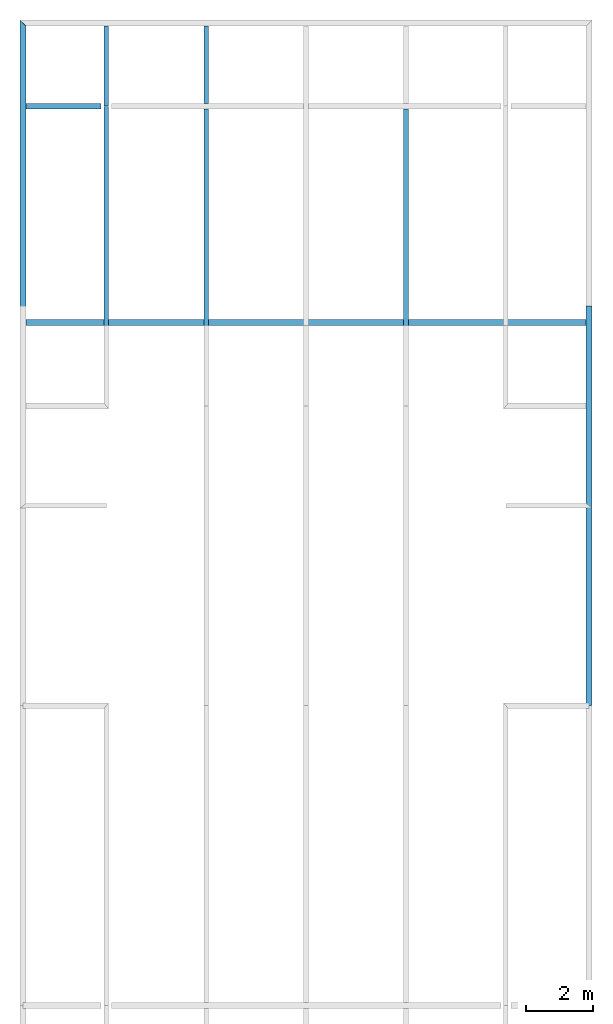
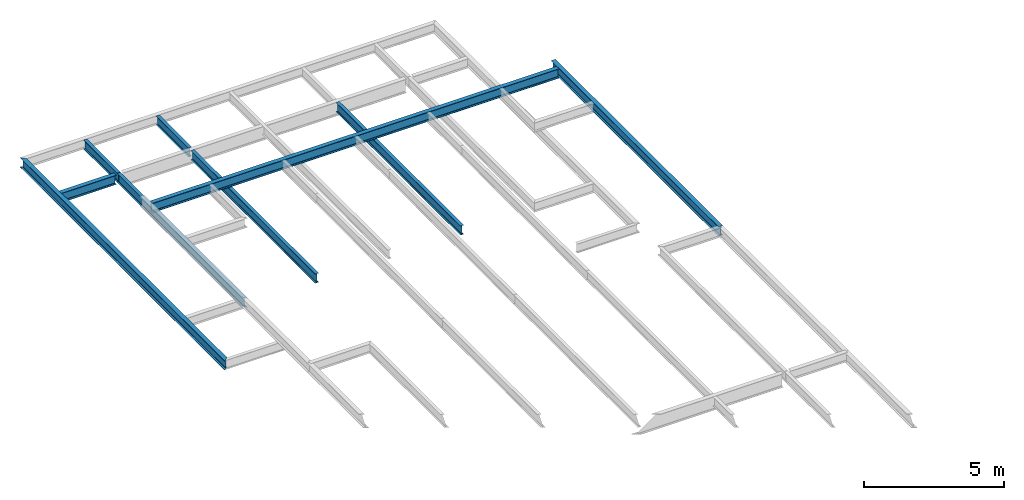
# One storey, part 6 of 7: 9 beams.
"""IFC2X3 building model written with IfcOpenShell, lengths in millimetres."""

from ifc_helpers import new_model, si_unit, origin, place, context, project, spatial, faceted_brep, material, element, save


model = new_model("IFC2X3")

# Units and contexts
context_of_model = context(None, 3, precision=1e-05, world=origin())
ifc_project = project(units=[si_unit("LENGTHUNIT", "METRE", prefix="MILLI")], contexts=[context_of_model])

# Building, storey
building = spatial("IfcBuilding", under=ifc_project, Name="Building", CompositionType="ELEMENT")
storey = spatial("IfcBuildingStorey", under=building, Name="ROF-FRM", CompositionType="ELEMENT")

# Beams
ifc_material_1 = material(Name="A992")
beam_1_placement = place(None, origin())
element("IfcBeam", 1, at=beam_1_placement, inside=storey, material=ifc_material_1, Name="B1136", context=context_of_model, shape_type="Brep", body=[
    faceted_brep([(-2410.0, 29410.0, 31260.0), (-2410.0, 29590.0, 31260.0), (14410.0, 29590.0, 31260.0), (14410.0, 29410.0, 31260.0), (-2410.0, 29590.0, 31276.0), (14410.0, 29590.0, 31276.0), (-2410.0, 29515.0, 31276.0), (14410.0, 29515.0, 31276.0), (-2410.0, 29512.4, 31276.3), (14410.0, 29512.4, 31276.3), (-2410.0, 29509.9, 31277.4), (14410.0, 29509.9, 31277.4), (-2410.0, 29507.8, 31279.0), (14410.0, 29507.8, 31279.0), (-2410.0, 29506.2, 31281.1), (14410.0, 29506.2, 31281.1), (-2410.0, 29505.2, 31283.6), (14410.0, 29505.2, 31283.6), (-2410.0, 29504.8, 31286.2), (14410.0, 29504.8, 31286.2), (-2410.0, 29504.8, 31646.8), (14410.0, 29504.8, 31646.8), (-2410.0, 29505.2, 31649.4), (14410.0, 29505.2, 31649.4), (-2410.0, 29506.2, 31651.9), (14410.0, 29506.2, 31651.9), (-2410.0, 29507.8, 31654.0), (14410.0, 29507.8, 31654.0), (-2410.0, 29509.9, 31655.6), (14410.0, 29509.9, 31655.6), (-2410.0, 29512.4, 31656.7), (14410.0, 29512.4, 31656.7), (-2410.0, 29515.0, 31657.0), (14410.0, 29515.0, 31657.0), (-2410.0, 29590.0, 31657.0), (14410.0, 29590.0, 31657.0), (-2410.0, 29590.0, 31673.0), (14410.0, 29590.0, 31673.0), (-2410.0, 29410.0, 31673.0), (14410.0, 29410.0, 31673.0), (-2410.0, 29410.0, 31657.0), (14410.0, 29410.0, 31657.0), (-2410.0, 29485.0, 31657.0), (14410.0, 29485.0, 31657.0), (-2410.0, 29487.6, 31656.7), (14410.0, 29487.6, 31656.7), (-2410.0, 29490.1, 31655.6), (14410.0, 29490.1, 31655.6), (-2410.0, 29492.2, 31654.0), (14410.0, 29492.2, 31654.0), (-2410.0, 29493.8, 31651.9), (14410.0, 29493.8, 31651.9), (-2410.0, 29494.8, 31649.4), (14410.0, 29494.8, 31649.4), (-2410.0, 29495.2, 31646.8), (14410.0, 29495.2, 31646.8), (-2410.0, 29495.2, 31286.2), (14410.0, 29495.2, 31286.2), (-2410.0, 29494.8, 31283.6), (14410.0, 29494.8, 31283.6), (-2410.0, 29493.8, 31281.1), (14410.0, 29493.8, 31281.1), (-2410.0, 29492.2, 31279.0), (14410.0, 29492.2, 31279.0), (-2410.0, 29490.1, 31277.4), (14410.0, 29490.1, 31277.4), (-2410.0, 29487.6, 31276.3), (14410.0, 29487.6, 31276.3), (-2410.0, 29485.0, 31276.0), (14410.0, 29485.0, 31276.0), (-2410.0, 29410.0, 31276.0), (14410.0, 29410.0, 31276.0)], [[[0, 1, 2, 3]], [[1, 4, 5, 2]], [[4, 6, 7, 5]], [[6, 8, 9, 7]], [[8, 10, 11, 9]], [[10, 12, 13, 11]], [[12, 14, 15, 13]], [[14, 16, 17, 15]], [[16, 18, 19, 17]], [[18, 20, 21, 19]], [[20, 22, 23, 21]], [[22, 24, 25, 23]], [[24, 26, 27, 25]], [[26, 28, 29, 27]], [[28, 30, 31, 29]], [[30, 32, 33, 31]], [[32, 34, 35, 33]], [[34, 36, 37, 35]], [[36, 38, 39, 37]], [[38, 40, 41, 39]], [[40, 42, 43, 41]], [[42, 44, 45, 43]], [[44, 46, 47, 45]], [[46, 48, 49, 47]], [[48, 50, 51, 49]], [[50, 52, 53, 51]], [[52, 54, 55, 53]], [[54, 56, 57, 55]], [[56, 58, 59, 57]], [[58, 60, 61, 59]], [[60, 62, 63, 61]], [[62, 64, 65, 63]], [[64, 66, 67, 65]], [[66, 68, 69, 67]], [[68, 70, 71, 69]], [[70, 0, 3, 71]], [[0, 70, 68, 66, 64, 62, 60, 58, 56, 54, 52, 50, 48, 46, 44, 42, 40, 38, 36, 34, 32, 30, 28, 26, 24, 22, 20, 18, 16, 14, 12, 10, 8, 6, 4, 1]], [[3, 2, 5, 7, 9, 11, 13, 15, 17, 19, 21, 23, 25, 27, 29, 31, 33, 35, 37, 39, 41, 43, 45, 47, 49, 51, 53, 55, 57, 59, 61, 63, 65, 67, 69, 71]]]),
])
ifc_material_2 = material(Name="A992")
beam_2_placement = place(None, origin())
element("IfcBeam", 2, at=beam_2_placement, inside=storey, material=ifc_material_2, Name="B1139", context=context_of_model, shape_type="Brep", body=[
    faceted_brep([(14590.0, 18000.0, 31260.0), (14410.0, 18000.0, 31260.0), (14410.0, 30000.0, 31260.0), (14590.0, 30000.0, 31260.0), (14410.0, 18000.0, 31276.0), (14410.0, 30000.0, 31276.0), (14485.0, 18000.0, 31276.0), (14485.0, 30000.0, 31276.0), (14487.6, 18000.0, 31276.3), (14487.6, 30000.0, 31276.3), (14490.1, 18000.0, 31277.4), (14490.1, 30000.0, 31277.4), (14492.2, 18000.0, 31279.0), (14492.2, 30000.0, 31279.0), (14493.8, 18000.0, 31281.1), (14493.8, 30000.0, 31281.1), (14494.8, 18000.0, 31283.6), (14494.8, 30000.0, 31283.6), (14495.2, 18000.0, 31286.2), (14495.2, 30000.0, 31286.2), (14495.2, 18000.0, 31646.8), (14495.2, 30000.0, 31646.8), (14494.8, 18000.0, 31649.4), (14494.8, 30000.0, 31649.4), (14493.8, 18000.0, 31651.9), (14493.8, 30000.0, 31651.9), (14492.2, 18000.0, 31654.0), (14492.2, 30000.0, 31654.0), (14490.1, 18000.0, 31655.6), (14490.1, 30000.0, 31655.6), (14487.6, 18000.0, 31656.7), (14487.6, 30000.0, 31656.7), (14485.0, 18000.0, 31657.0), (14485.0, 30000.0, 31657.0), (14410.0, 18000.0, 31657.0), (14410.0, 30000.0, 31657.0), (14410.0, 18000.0, 31673.0), (14410.0, 30000.0, 31673.0), (14590.0, 18000.0, 31673.0), (14590.0, 30000.0, 31673.0), (14590.0, 18000.0, 31657.0), (14590.0, 30000.0, 31657.0), (14515.0, 18000.0, 31657.0), (14515.0, 30000.0, 31657.0), (14512.4, 18000.0, 31656.7), (14512.4, 30000.0, 31656.7), (14509.9, 18000.0, 31655.6), (14509.9, 30000.0, 31655.6), (14507.8, 18000.0, 31654.0), (14507.8, 30000.0, 31654.0), (14506.2, 18000.0, 31651.9), (14506.2, 30000.0, 31651.9), (14505.2, 18000.0, 31649.4), (14505.2, 30000.0, 31649.4), (14504.8, 18000.0, 31646.8), (14504.8, 30000.0, 31646.8), (14504.8, 18000.0, 31286.2), (14504.8, 30000.0, 31286.2), (14505.2, 18000.0, 31283.6), (14505.2, 30000.0, 31283.6), (14506.2, 18000.0, 31281.1), (14506.2, 30000.0, 31281.1), (14507.8, 18000.0, 31279.0), (14507.8, 30000.0, 31279.0), (14509.9, 18000.0, 31277.4), (14509.9, 30000.0, 31277.4), (14512.4, 18000.0, 31276.3), (14512.4, 30000.0, 31276.3), (14515.0, 18000.0, 31276.0), (14515.0, 30000.0, 31276.0), (14590.0, 18000.0, 31276.0), (14590.0, 30000.0, 31276.0)], [[[0, 1, 2, 3]], [[1, 4, 5, 2]], [[4, 6, 7, 5]], [[6, 8, 9, 7]], [[8, 10, 11, 9]], [[10, 12, 13, 11]], [[12, 14, 15, 13]], [[14, 16, 17, 15]], [[16, 18, 19, 17]], [[18, 20, 21, 19]], [[20, 22, 23, 21]], [[22, 24, 25, 23]], [[24, 26, 27, 25]], [[26, 28, 29, 27]], [[28, 30, 31, 29]], [[30, 32, 33, 31]], [[32, 34, 35, 33]], [[34, 36, 37, 35]], [[36, 38, 39, 37]], [[38, 40, 41, 39]], [[40, 42, 43, 41]], [[42, 44, 45, 43]], [[44, 46, 47, 45]], [[46, 48, 49, 47]], [[48, 50, 51, 49]], [[50, 52, 53, 51]], [[52, 54, 55, 53]], [[54, 56, 57, 55]], [[56, 58, 59, 57]], [[58, 60, 61, 59]], [[60, 62, 63, 61]], [[62, 64, 65, 63]], [[64, 66, 67, 65]], [[66, 68, 69, 67]], [[68, 70, 71, 69]], [[70, 0, 3, 71]], [[0, 70, 68, 66, 64, 62, 60, 58, 56, 54, 52, 50, 48, 46, 44, 42, 40, 38, 36, 34, 32, 30, 28, 26, 24, 22, 20, 18, 16, 14, 12, 10, 8, 6, 4, 1]], [[3, 2, 5, 7, 9, 11, 13, 15, 17, 19, 21, 23, 25, 27, 29, 31, 33, 35, 37, 39, 41, 43, 45, 47, 49, 51, 53, 55, 57, 59, 61, 63, 65, 67, 69, 71]]]),
])
ifc_material_3 = material(Name="A992")
beam_3_placement = place(None, origin())
element("IfcBeam", 3, at=beam_3_placement, inside=storey, material=ifc_material_3, Name="B1144", context=context_of_model, shape_type="Brep", body=[
    faceted_brep([(-2590.0, 38590.0, 27760.0), (-2410.0, 38410.0, 27760.0), (-2410.0, 24070.0, 27760.0), (-2590.0, 23930.0, 27760.0), (-2410.0, 38410.0, 27776.0), (-2410.0, 24070.0, 27776.0), (-2484.95, 38485.0, 27776.0), (-2484.95, 24011.7, 27776.0), (-2486.53, 38486.5, 27776.1), (-2486.53, 24010.5, 27776.1), (-2488.09, 38488.1, 27776.5), (-2488.09, 24009.3, 27776.5), (-2489.55, 38489.6, 27777.1), (-2489.56, 24008.1, 27777.1), (-2490.91, 38490.9, 27777.9), (-2490.92, 24007.1, 27777.9), (-2492.16, 38492.2, 27779.0), (-2492.16, 24006.1, 27779.0), (-2493.17, 38493.2, 27780.2), (-2493.18, 24005.3, 27780.2), (-2494.03, 38494.0, 27781.5), (-2494.03, 24004.6, 27781.5), (-2494.63, 38494.6, 27783.0), (-2494.64, 24004.2, 27783.0), (-2494.99, 38495.0, 27784.6), (-2495.0, 24003.9, 27784.6), (-2495.15, 38495.2, 27786.2), (-2495.15, 24003.8, 27786.2), (-2495.15, 38495.2, 28146.8), (-2495.15, 24003.8, 28146.8), (-2494.99, 38495.0, 28148.4), (-2495.0, 24003.9, 28148.4), (-2494.63, 38494.6, 28150.0), (-2494.64, 24004.2, 28150.0), (-2494.03, 38494.0, 28151.5), (-2494.03, 24004.6, 28151.5), (-2493.17, 38493.2, 28152.8), (-2493.18, 24005.3, 28152.8), (-2492.16, 38492.2, 28154.0), (-2492.16, 24006.1, 28154.0), (-2490.91, 38490.9, 28155.1), (-2490.92, 24007.1, 28155.1), (-2489.55, 38489.6, 28155.9), (-2489.56, 24008.1, 28155.9), (-2488.09, 38488.1, 28156.5), (-2488.09, 24009.3, 28156.5), (-2486.53, 38486.5, 28156.9), (-2486.53, 24010.5, 28156.9), (-2484.95, 38485.0, 28157.0), (-2484.95, 24011.7, 28157.0), (-2410.0, 38410.0, 28157.0), (-2410.0, 24070.0, 28157.0), (-2410.0, 38410.0, 28173.0), (-2410.0, 24070.0, 28173.0), (-2590.0, 38590.0, 28173.0), (-2590.0, 23930.0, 28173.0), (-2590.0, 38590.0, 28157.0), (-2590.0, 23930.0, 28157.0), (-2515.05, 38515.0, 28157.0), (-2515.05, 23988.3, 28157.0), (-2513.47, 38513.5, 28156.9), (-2513.47, 23989.5, 28156.9), (-2511.91, 38511.9, 28156.5), (-2511.91, 23990.7, 28156.5), (-2510.45, 38510.4, 28155.9), (-2510.44, 23991.9, 28155.9), (-2509.09, 38509.1, 28155.1), (-2509.08, 23992.9, 28155.1), (-2507.84, 38507.8, 28154.0), (-2507.84, 23993.9, 28154.0), (-2506.83, 38506.8, 28152.8), (-2506.82, 23994.7, 28152.8), (-2505.97, 38506.0, 28151.5), (-2505.97, 23995.4, 28151.5), (-2505.37, 38505.4, 28150.0), (-2505.36, 23995.8, 28150.0), (-2505.01, 38505.0, 28148.4), (-2505.0, 23996.1, 28148.4), (-2504.85, 38504.8, 28146.8), (-2504.85, 23996.2, 28146.8), (-2504.85, 38504.8, 27786.2), (-2504.85, 23996.2, 27786.2), (-2505.01, 38505.0, 27784.6), (-2505.0, 23996.1, 27784.6), (-2505.37, 38505.4, 27783.0), (-2505.36, 23995.8, 27783.0), (-2505.97, 38506.0, 27781.5), (-2505.97, 23995.4, 27781.5), (-2506.83, 38506.8, 27780.2), (-2506.82, 23994.7, 27780.2), (-2507.84, 38507.8, 27779.0), (-2507.84, 23993.9, 27779.0), (-2509.09, 38509.1, 27777.9), (-2509.08, 23992.9, 27777.9), (-2510.45, 38510.4, 27777.1), (-2510.44, 23991.9, 27777.1), (-2511.91, 38511.9, 27776.5), (-2511.91, 23990.7, 27776.5), (-2513.47, 38513.5, 27776.1), (-2513.47, 23989.5, 27776.1), (-2515.05, 38515.0, 27776.0), (-2515.05, 23988.3, 27776.0), (-2590.0, 38590.0, 27776.0), (-2590.0, 23930.0, 27776.0)], [[[0, 1, 2, 3]], [[1, 4, 5, 2]], [[4, 6, 7, 5]], [[6, 8, 9, 7]], [[8, 10, 11, 9]], [[10, 12, 13, 11]], [[12, 14, 15, 13]], [[14, 16, 17, 15]], [[16, 18, 19, 17]], [[18, 20, 21, 19]], [[20, 22, 23, 21]], [[22, 24, 25, 23]], [[24, 26, 27, 25]], [[26, 28, 29, 27]], [[28, 30, 31, 29]], [[30, 32, 33, 31]], [[32, 34, 35, 33]], [[34, 36, 37, 35]], [[36, 38, 39, 37]], [[38, 40, 41, 39]], [[40, 42, 43, 41]], [[42, 44, 45, 43]], [[44, 46, 47, 45]], [[46, 48, 49, 47]], [[48, 50, 51, 49]], [[50, 52, 53, 51]], [[52, 54, 55, 53]], [[54, 56, 57, 55]], [[56, 58, 59, 57]], [[58, 60, 61, 59]], [[60, 62, 63, 61]], [[62, 64, 65, 63]], [[64, 66, 67, 65]], [[66, 68, 69, 67]], [[68, 70, 71, 69]], [[70, 72, 73, 71]], [[72, 74, 75, 73]], [[74, 76, 77, 75]], [[76, 78, 79, 77]], [[78, 80, 81, 79]], [[80, 82, 83, 81]], [[82, 84, 85, 83]], [[84, 86, 87, 85]], [[86, 88, 89, 87]], [[88, 90, 91, 89]], [[90, 92, 93, 91]], [[92, 94, 95, 93]], [[94, 96, 97, 95]], [[96, 98, 99, 97]], [[98, 100, 101, 99]], [[100, 102, 103, 101]], [[102, 0, 3, 103]], [[0, 102, 100, 98, 96, 94, 92, 90, 88, 86, 84, 82, 80, 78, 76, 74, 72, 70, 68, 66, 64, 62, 60, 58, 56, 54, 52, 50, 48, 46, 44, 42, 40, 38, 36, 34, 32, 30, 28, 26, 24, 22, 20, 18, 16, 14, 12, 10, 8, 6, 4, 1]], [[3, 2, 5, 7, 9, 11, 13, 15, 17, 19, 21, 23, 25, 27, 29, 31, 33, 35, 37, 39, 41, 43, 45, 47, 49, 51, 53, 55, 57, 59, 61, 63, 65, 67, 69, 71, 73, 75, 77, 79, 81, 83, 85, 87, 89, 91, 93, 95, 97, 99, 101, 103]]]),
])
ifc_material_4 = material(Name="A992")
beam_4_placement = place(None, origin())
element("IfcBeam", 4, at=beam_4_placement, inside=storey, material=ifc_material_4, Name="B1149", context=context_of_model, shape_type="Brep", body=[
    faceted_brep([(8930.0, 35910.5, 27770.0), (9070.0, 35910.5, 27770.0), (9070.0, 27000.0, 27770.0), (8930.0, 27000.0, 27770.0), (9070.0, 35910.5, 27781.2), (9070.0, 27000.0, 27781.2), (9013.7, 35910.5, 27781.2), (9013.7, 27000.0, 27781.2), (9011.06, 35910.5, 27781.5), (9011.06, 27000.0, 27781.5), (9008.6, 35910.5, 27782.6), (9008.6, 27000.0, 27782.6), (9006.49, 35910.5, 27784.2), (9006.49, 27000.0, 27784.2), (9004.87, 35910.5, 27786.3), (9004.87, 27000.0, 27786.3), (9003.85, 35910.5, 27788.8), (9003.85, 27000.0, 27788.8), (9003.5, 35910.5, 27791.4), (9003.5, 27000.0, 27791.4), (9003.5, 35910.5, 28151.6), (9003.5, 27000.0, 28151.6), (9003.85, 35910.5, 28154.2), (9003.85, 27000.0, 28154.2), (9004.87, 35910.5, 28156.7), (9004.87, 27000.0, 28156.7), (9006.49, 35910.5, 28158.8), (9006.49, 27000.0, 28158.8), (9008.6, 35910.5, 28160.4), (9008.6, 27000.0, 28160.4), (9011.06, 35910.5, 28161.5), (9011.06, 27000.0, 28161.5), (9013.7, 35910.5, 28161.8), (9013.7, 27000.0, 28161.8), (9070.0, 35910.5, 28161.8), (9070.0, 27000.0, 28161.8), (9070.0, 35910.5, 28173.0), (9070.0, 27000.0, 28173.0), (8930.0, 35910.5, 28173.0), (8930.0, 27000.0, 28173.0), (8930.0, 35910.5, 28161.8), (8930.0, 27000.0, 28161.8), (8986.3, 35910.5, 28161.8), (8986.3, 27000.0, 28161.8), (8988.94, 35910.5, 28161.5), (8988.94, 27000.0, 28161.5), (8991.4, 35910.5, 28160.4), (8991.4, 27000.0, 28160.4), (8993.51, 35910.5, 28158.8), (8993.51, 27000.0, 28158.8), (8995.13, 35910.5, 28156.7), (8995.13, 27000.0, 28156.7), (8996.15, 35910.5, 28154.2), (8996.15, 27000.0, 28154.2), (8996.5, 35910.5, 28151.6), (8996.5, 27000.0, 28151.6), (8996.5, 35910.5, 27791.4), (8996.5, 27000.0, 27791.4), (8996.15, 35910.5, 27788.8), (8996.15, 27000.0, 27788.8), (8995.13, 35910.5, 27786.3), (8995.13, 27000.0, 27786.3), (8993.51, 35910.5, 27784.2), (8993.51, 27000.0, 27784.2), (8991.4, 35910.5, 27782.6), (8991.4, 27000.0, 27782.6), (8988.94, 35910.5, 27781.5), (8988.94, 27000.0, 27781.5), (8986.3, 35910.5, 27781.2), (8986.3, 27000.0, 27781.2), (8930.0, 35910.5, 27781.2), (8930.0, 27000.0, 27781.2)], [[[0, 1, 2, 3]], [[1, 4, 5, 2]], [[4, 6, 7, 5]], [[6, 8, 9, 7]], [[8, 10, 11, 9]], [[10, 12, 13, 11]], [[12, 14, 15, 13]], [[14, 16, 17, 15]], [[16, 18, 19, 17]], [[18, 20, 21, 19]], [[20, 22, 23, 21]], [[22, 24, 25, 23]], [[24, 26, 27, 25]], [[26, 28, 29, 27]], [[28, 30, 31, 29]], [[30, 32, 33, 31]], [[32, 34, 35, 33]], [[34, 36, 37, 35]], [[36, 38, 39, 37]], [[38, 40, 41, 39]], [[40, 42, 43, 41]], [[42, 44, 45, 43]], [[44, 46, 47, 45]], [[46, 48, 49, 47]], [[48, 50, 51, 49]], [[50, 52, 53, 51]], [[52, 54, 55, 53]], [[54, 56, 57, 55]], [[56, 58, 59, 57]], [[58, 60, 61, 59]], [[60, 62, 63, 61]], [[62, 64, 65, 63]], [[64, 66, 67, 65]], [[66, 68, 69, 67]], [[68, 70, 71, 69]], [[70, 0, 3, 71]], [[0, 70, 68, 66, 64, 62, 60, 58, 56, 54, 52, 50, 48, 46, 44, 42, 40, 38, 36, 34, 32, 30, 28, 26, 24, 22, 20, 18, 16, 14, 12, 10, 8, 6, 4, 1]], [[3, 2, 5, 7, 9, 11, 13, 15, 17, 19, 21, 23, 25, 27, 29, 31, 33, 35, 37, 39, 41, 43, 45, 47, 49, 51, 53, 55, 57, 59, 61, 63, 65, 67, 69, 71]]]),
])
ifc_material_5 = material(Name="A992")
beam_5_placement = place(None, origin())
element("IfcBeam", 5, at=beam_5_placement, inside=storey, material=ifc_material_5, Name="B1153", context=context_of_model, shape_type="Brep", body=[
    faceted_brep([(2930.0, 35910.5, 27770.0), (3070.0, 35910.5, 27770.0), (3070.0, 27000.0, 27770.0), (2930.0, 27000.0, 27770.0), (3070.0, 35910.5, 27781.2), (3070.0, 27000.0, 27781.2), (3013.7, 35910.5, 27781.2), (3013.7, 27000.0, 27781.2), (3011.06, 35910.5, 27781.5), (3011.06, 27000.0, 27781.5), (3008.6, 35910.5, 27782.6), (3008.6, 27000.0, 27782.6), (3006.49, 35910.5, 27784.2), (3006.49, 27000.0, 27784.2), (3004.87, 35910.5, 27786.3), (3004.87, 27000.0, 27786.3), (3003.85, 35910.5, 27788.8), (3003.85, 27000.0, 27788.8), (3003.5, 35910.5, 27791.4), (3003.5, 27000.0, 27791.4), (3003.5, 35910.5, 28151.6), (3003.5, 27000.0, 28151.6), (3003.85, 35910.5, 28154.2), (3003.85, 27000.0, 28154.2), (3004.87, 35910.5, 28156.7), (3004.87, 27000.0, 28156.7), (3006.49, 35910.5, 28158.8), (3006.49, 27000.0, 28158.8), (3008.6, 35910.5, 28160.4), (3008.6, 27000.0, 28160.4), (3011.06, 35910.5, 28161.5), (3011.06, 27000.0, 28161.5), (3013.7, 35910.5, 28161.8), (3013.7, 27000.0, 28161.8), (3070.0, 35910.5, 28161.8), (3070.0, 27000.0, 28161.8), (3070.0, 35910.5, 28173.0), (3070.0, 27000.0, 28173.0), (2930.0, 35910.5, 28173.0), (2930.0, 27000.0, 28173.0), (2930.0, 35910.5, 28161.8), (2930.0, 27000.0, 28161.8), (2986.3, 35910.5, 28161.8), (2986.3, 27000.0, 28161.8), (2988.94, 35910.5, 28161.5), (2988.94, 27000.0, 28161.5), (2991.4, 35910.5, 28160.4), (2991.4, 27000.0, 28160.4), (2993.51, 35910.5, 28158.8), (2993.51, 27000.0, 28158.8), (2995.13, 35910.5, 28156.7), (2995.13, 27000.0, 28156.7), (2996.15, 35910.5, 28154.2), (2996.15, 27000.0, 28154.2), (2996.5, 35910.5, 28151.6), (2996.5, 27000.0, 28151.6), (2996.5, 35910.5, 27791.4), (2996.5, 27000.0, 27791.4), (2996.15, 35910.5, 27788.8), (2996.15, 27000.0, 27788.8), (2995.13, 35910.5, 27786.3), (2995.13, 27000.0, 27786.3), (2993.51, 35910.5, 27784.2), (2993.51, 27000.0, 27784.2), (2991.4, 35910.5, 27782.6), (2991.4, 27000.0, 27782.6), (2988.94, 35910.5, 27781.5), (2988.94, 27000.0, 27781.5), (2986.3, 35910.5, 27781.2), (2986.3, 27000.0, 27781.2), (2930.0, 35910.5, 27781.2), (2930.0, 27000.0, 27781.2)], [[[0, 1, 2, 3]], [[1, 4, 5, 2]], [[4, 6, 7, 5]], [[6, 8, 9, 7]], [[8, 10, 11, 9]], [[10, 12, 13, 11]], [[12, 14, 15, 13]], [[14, 16, 17, 15]], [[16, 18, 19, 17]], [[18, 20, 21, 19]], [[20, 22, 23, 21]], [[22, 24, 25, 23]], [[24, 26, 27, 25]], [[26, 28, 29, 27]], [[28, 30, 31, 29]], [[30, 32, 33, 31]], [[32, 34, 35, 33]], [[34, 36, 37, 35]], [[36, 38, 39, 37]], [[38, 40, 41, 39]], [[40, 42, 43, 41]], [[42, 44, 45, 43]], [[44, 46, 47, 45]], [[46, 48, 49, 47]], [[48, 50, 51, 49]], [[50, 52, 53, 51]], [[52, 54, 55, 53]], [[54, 56, 57, 55]], [[56, 58, 59, 57]], [[58, 60, 61, 59]], [[60, 62, 63, 61]], [[62, 64, 65, 63]], [[64, 66, 67, 65]], [[66, 68, 69, 67]], [[68, 70, 71, 69]], [[70, 0, 3, 71]], [[0, 70, 68, 66, 64, 62, 60, 58, 56, 54, 52, 50, 48, 46, 44, 42, 40, 38, 36, 34, 32, 30, 28, 26, 24, 22, 20, 18, 16, 14, 12, 10, 8, 6, 4, 1]], [[3, 2, 5, 7, 9, 11, 13, 15, 17, 19, 21, 23, 25, 27, 29, 31, 33, 35, 37, 39, 41, 43, 45, 47, 49, 51, 53, 55, 57, 59, 61, 63, 65, 67, 69, 71]]]),
])
ifc_material_6 = material(Name="A992")
beam_6_placement = place(None, origin())
element("IfcBeam", 6, at=beam_6_placement, inside=storey, material=ifc_material_6, Name="B1154", context=context_of_model, shape_type="Brep", body=[
    faceted_brep([(3070.0, 36089.5, 27774.0), (2930.0, 36089.5, 27774.0), (2930.0, 38410.0, 27774.0), (3070.0, 38410.0, 27774.0), (2930.0, 36089.5, 27782.8), (2930.0, 38410.0, 27782.8), (2986.6, 36089.5, 27782.8), (2986.6, 38410.0, 27782.8), (2989.24, 36089.5, 27783.1), (2989.24, 38410.0, 27783.1), (2991.7, 36089.5, 27784.2), (2991.7, 38410.0, 27784.2), (2993.81, 36089.5, 27785.8), (2993.81, 38410.0, 27785.8), (2995.43, 36089.5, 27787.9), (2995.43, 38410.0, 27787.9), (2996.45, 36089.5, 27790.4), (2996.45, 38410.0, 27790.4), (2996.8, 36089.5, 27793.0), (2996.8, 38410.0, 27793.0), (2996.8, 36089.5, 28154.0), (2996.8, 38410.0, 28154.0), (2996.45, 36089.5, 28156.6), (2996.45, 38410.0, 28156.6), (2995.43, 36089.5, 28159.1), (2995.43, 38410.0, 28159.1), (2993.81, 36089.5, 28161.2), (2993.81, 38410.0, 28161.2), (2991.7, 36089.5, 28162.8), (2991.7, 38410.0, 28162.8), (2989.24, 36089.5, 28163.9), (2989.24, 38410.0, 28163.9), (2986.6, 36089.5, 28164.2), (2986.6, 38410.0, 28164.2), (2930.0, 36089.5, 28164.2), (2930.0, 38410.0, 28164.2), (2930.0, 36089.5, 28173.0), (2930.0, 38410.0, 28173.0), (3070.0, 36089.5, 28173.0), (3070.0, 38410.0, 28173.0), (3070.0, 36089.5, 28164.2), (3070.0, 38410.0, 28164.2), (3013.4, 36089.5, 28164.2), (3013.4, 38410.0, 28164.2), (3010.76, 36089.5, 28163.9), (3010.76, 38410.0, 28163.9), (3008.3, 36089.5, 28162.8), (3008.3, 38410.0, 28162.8), (3006.19, 36089.5, 28161.2), (3006.19, 38410.0, 28161.2), (3004.57, 36089.5, 28159.1), (3004.57, 38410.0, 28159.1), (3003.55, 36089.5, 28156.6), (3003.55, 38410.0, 28156.6), (3003.2, 36089.5, 28154.0), (3003.2, 38410.0, 28154.0), (3003.2, 36089.5, 27793.0), (3003.2, 38410.0, 27793.0), (3003.55, 36089.5, 27790.4), (3003.55, 38410.0, 27790.4), (3004.57, 36089.5, 27787.9), (3004.57, 38410.0, 27787.9), (3006.19, 36089.5, 27785.8), (3006.19, 38410.0, 27785.8), (3008.3, 36089.5, 27784.2), (3008.3, 38410.0, 27784.2), (3010.76, 36089.5, 27783.1), (3010.76, 38410.0, 27783.1), (3013.4, 36089.5, 27782.8), (3013.4, 38410.0, 27782.8), (3070.0, 36089.5, 27782.8), (3070.0, 38410.0, 27782.8)], [[[0, 1, 2, 3]], [[1, 4, 5, 2]], [[4, 6, 7, 5]], [[6, 8, 9, 7]], [[8, 10, 11, 9]], [[10, 12, 13, 11]], [[12, 14, 15, 13]], [[14, 16, 17, 15]], [[16, 18, 19, 17]], [[18, 20, 21, 19]], [[20, 22, 23, 21]], [[22, 24, 25, 23]], [[24, 26, 27, 25]], [[26, 28, 29, 27]], [[28, 30, 31, 29]], [[30, 32, 33, 31]], [[32, 34, 35, 33]], [[34, 36, 37, 35]], [[36, 38, 39, 37]], [[38, 40, 41, 39]], [[40, 42, 43, 41]], [[42, 44, 45, 43]], [[44, 46, 47, 45]], [[46, 48, 49, 47]], [[48, 50, 51, 49]], [[50, 52, 53, 51]], [[52, 54, 55, 53]], [[54, 56, 57, 55]], [[56, 58, 59, 57]], [[58, 60, 61, 59]], [[60, 62, 63, 61]], [[62, 64, 65, 63]], [[64, 66, 67, 65]], [[66, 68, 69, 67]], [[68, 70, 71, 69]], [[70, 0, 3, 71]], [[0, 70, 68, 66, 64, 62, 60, 58, 56, 54, 52, 50, 48, 46, 44, 42, 40, 38, 36, 34, 32, 30, 28, 26, 24, 22, 20, 18, 16, 14, 12, 10, 8, 6, 4, 1]], [[3, 2, 5, 7, 9, 11, 13, 15, 17, 19, 21, 23, 25, 27, 29, 31, 33, 35, 37, 39, 41, 43, 45, 47, 49, 51, 53, 55, 57, 59, 61, 63, 65, 67, 69, 71]]]),
])
ifc_material_7 = material(Name="A992")
beam_7_placement = place(None, origin())
element("IfcBeam", 7, at=beam_7_placement, inside=storey, material=ifc_material_7, Name="B1155", context=context_of_model, shape_type="Brep", body=[
    faceted_brep([(-70.0, 35995.6, 27770.0), (70.0, 35995.6, 27770.0), (70.0, 26911.0, 27770.0), (-70.0, 27089.0, 27770.0), (70.0, 35995.6, 27781.2), (70.0, 26911.0, 27781.2), (13.7, 35995.6, 27781.2), (13.7, 26982.6, 27781.2), (12.1044, 35995.6, 27781.3), (12.1236, 26984.6, 27781.3), (10.548, 35995.6, 27781.7), (10.564, 26986.6, 27781.7), (9.0693, 35995.6, 27782.3), (9.10399, 26988.4, 27782.3), (7.70459, 35995.6, 27783.1), (7.75085, 26990.1, 27783.1), (6.48751, 35995.6, 27784.2), (6.48751, 26991.8, 27784.2), (5.44803, 35995.6, 27785.4), (5.49559, 26993.0, 27785.3), (4.61173, 35995.6, 27786.8), (4.62699, 26994.1, 27786.7), (3.99922, 35995.6, 27788.2), (4.0322, 26994.9, 27788.2), (3.62558, 35995.6, 27789.8), (3.67443, 26995.3, 27789.8), (3.5, 35995.6, 27791.4), (3.5, 26995.5, 27791.4), (3.5, 35995.6, 28151.6), (3.5, 26995.6, 28151.6), (3.62558, 35995.6, 28153.2), (3.67443, 26995.3, 28153.2), (3.99922, 35995.6, 28154.8), (4.0322, 26994.9, 28154.8), (4.61173, 35995.6, 28156.2), (4.62699, 26994.1, 28156.3), (5.44803, 35995.6, 28157.6), (5.49559, 26993.0, 28157.7), (6.48751, 35995.6, 28158.8), (6.48751, 26991.8, 28158.8), (7.70459, 35995.6, 28159.9), (7.75085, 26990.1, 28159.9), (9.0693, 35995.6, 28160.7), (9.10399, 26988.4, 28160.7), (10.548, 35995.6, 28161.3), (10.564, 26986.6, 28161.3), (12.1044, 35995.6, 28161.7), (12.1236, 26984.6, 28161.7), (13.7, 35995.6, 28161.8), (13.7, 26982.6, 28161.8), (70.0, 35995.6, 28161.8), (70.0, 26911.0, 28161.8), (70.0, 35995.6, 28173.0), (70.0, 26911.0, 28173.0), (-70.0, 35995.6, 28173.0), (-70.0, 27089.0, 28173.0), (-70.0, 35995.6, 28161.8), (-70.0, 27089.0, 28161.8), (-13.7, 35995.6, 28161.8), (-13.7, 27017.4, 28161.8), (-12.1044, 35995.6, 28161.7), (-12.1236, 27015.4, 28161.7), (-10.548, 35995.6, 28161.3), (-10.564, 27013.4, 28161.3), (-9.0693, 35995.6, 28160.7), (-9.10399, 27011.6, 28160.7), (-7.70459, 35995.6, 28159.9), (-7.75085, 27009.9, 28159.9), (-6.48751, 35995.6, 28158.8), (-6.48751, 27008.2, 28158.8), (-5.44803, 35995.6, 28157.6), (-5.49559, 27007.0, 28157.7), (-4.61173, 35995.6, 28156.2), (-4.62699, 27005.9, 28156.3), (-3.99922, 35995.6, 28154.8), (-4.0322, 27005.1, 28154.8), (-3.62558, 35995.6, 28153.2), (-3.67443, 27004.7, 28153.2), (-3.5, 35995.6, 28151.6), (-3.5, 27004.5, 28151.6), (-3.5, 35995.6, 27791.4), (-3.5, 27004.4, 27791.4), (-3.62558, 35995.6, 27789.8), (-3.67443, 27004.7, 27789.8), (-3.99922, 35995.6, 27788.2), (-4.0322, 27005.1, 27788.2), (-4.61173, 35995.6, 27786.8), (-4.62699, 27005.9, 27786.7), (-5.44803, 35995.6, 27785.4), (-5.49559, 27007.0, 27785.3), (-6.48751, 35995.6, 27784.2), (-6.48751, 27008.2, 27784.2), (-7.70459, 35995.6, 27783.1), (-7.75085, 27009.9, 27783.1), (-9.0693, 35995.6, 27782.3), (-9.10399, 27011.6, 27782.3), (-10.548, 35995.6, 27781.7), (-10.564, 27013.4, 27781.7), (-12.1044, 35995.6, 27781.3), (-12.1236, 27015.4, 27781.3), (-13.7, 35995.6, 27781.2), (-13.7, 27017.4, 27781.2), (-70.0, 35995.6, 27781.2), (-70.0, 27089.0, 27781.2)], [[[0, 1, 2, 3]], [[1, 4, 5, 2]], [[4, 6, 7, 5]], [[6, 8, 9, 7]], [[8, 10, 11, 9]], [[10, 12, 13, 11]], [[12, 14, 15, 13]], [[14, 16, 17, 15]], [[16, 18, 19, 17]], [[18, 20, 21, 19]], [[20, 22, 23, 21]], [[22, 24, 25, 23]], [[24, 26, 27, 25]], [[26, 28, 29, 27]], [[28, 30, 31, 29]], [[30, 32, 33, 31]], [[32, 34, 35, 33]], [[34, 36, 37, 35]], [[36, 38, 39, 37]], [[38, 40, 41, 39]], [[40, 42, 43, 41]], [[42, 44, 45, 43]], [[44, 46, 47, 45]], [[46, 48, 49, 47]], [[48, 50, 51, 49]], [[50, 52, 53, 51]], [[52, 54, 55, 53]], [[54, 56, 57, 55]], [[56, 58, 59, 57]], [[58, 60, 61, 59]], [[60, 62, 63, 61]], [[62, 64, 65, 63]], [[64, 66, 67, 65]], [[66, 68, 69, 67]], [[68, 70, 71, 69]], [[70, 72, 73, 71]], [[72, 74, 75, 73]], [[74, 76, 77, 75]], [[76, 78, 79, 77]], [[78, 80, 81, 79]], [[80, 82, 83, 81]], [[82, 84, 85, 83]], [[84, 86, 87, 85]], [[86, 88, 89, 87]], [[88, 90, 91, 89]], [[90, 92, 93, 91]], [[92, 94, 95, 93]], [[94, 96, 97, 95]], [[96, 98, 99, 97]], [[98, 100, 101, 99]], [[100, 102, 103, 101]], [[102, 0, 3, 103]], [[0, 102, 100, 98, 96, 94, 92, 90, 88, 86, 84, 82, 80, 78, 76, 74, 72, 70, 68, 66, 64, 62, 60, 58, 56, 54, 52, 50, 48, 46, 44, 42, 40, 38, 36, 34, 32, 30, 28, 26, 24, 22, 20, 18, 16, 14, 12, 10, 8, 6, 4, 1]], [[3, 2, 5, 7, 9, 11, 13, 15, 17, 19, 21, 23, 25, 27, 29, 31, 33, 35, 37, 39, 41, 43, 45, 47, 49, 51, 53, 55, 57, 59, 61, 63, 65, 67, 69, 71, 73, 75, 77, 79, 81, 83, 85, 87, 89, 91, 93, 95, 97, 99, 101, 103]]]),
])
ifc_material_8 = material(Name="A992")
beam_8_placement = place(None, origin())
element("IfcBeam", 8, at=beam_8_placement, inside=storey, material=ifc_material_8, Name="B1156", context=context_of_model, shape_type="Brep", body=[
    faceted_brep([(70.0, 36004.4, 27774.0), (-70.0, 36004.4, 27774.0), (-70.0, 38410.0, 27774.0), (70.0, 38410.0, 27774.0), (-70.0, 36004.4, 27782.8), (-70.0, 38410.0, 27782.8), (-13.4, 36004.4, 27782.8), (-13.4, 38410.0, 27782.8), (-10.76, 36004.4, 27783.1), (-10.76, 38410.0, 27783.1), (-8.3, 36004.4, 27784.2), (-8.3, 38410.0, 27784.2), (-6.18751, 36004.4, 27785.8), (-6.18751, 38410.0, 27785.8), (-4.56654, 36004.4, 27787.9), (-4.56654, 38410.0, 27787.9), (-3.54756, 36004.4, 27790.4), (-3.54756, 38410.0, 27790.4), (-3.2, 36004.4, 27793.0), (-3.2, 38410.0, 27793.0), (-3.2, 36004.4, 28154.0), (-3.2, 38410.0, 28154.0), (-3.54756, 36004.4, 28156.6), (-3.54756, 38410.0, 28156.6), (-4.56654, 36004.4, 28159.1), (-4.56654, 38410.0, 28159.1), (-6.18751, 36004.4, 28161.2), (-6.18751, 38410.0, 28161.2), (-8.3, 36004.4, 28162.8), (-8.3, 38410.0, 28162.8), (-10.76, 36004.4, 28163.9), (-10.76, 38410.0, 28163.9), (-13.4, 36004.4, 28164.2), (-13.4, 38410.0, 28164.2), (-70.0, 36004.4, 28164.2), (-70.0, 38410.0, 28164.2), (-70.0, 36004.4, 28173.0), (-70.0, 38410.0, 28173.0), (70.0, 36004.4, 28173.0), (70.0, 38410.0, 28173.0), (70.0, 36004.4, 28164.2), (70.0, 38410.0, 28164.2), (13.4, 36004.4, 28164.2), (13.4, 38410.0, 28164.2), (10.76, 36004.4, 28163.9), (10.76, 38410.0, 28163.9), (8.3, 36004.4, 28162.8), (8.3, 38410.0, 28162.8), (6.18751, 36004.4, 28161.2), (6.18751, 38410.0, 28161.2), (4.56654, 36004.4, 28159.1), (4.56654, 38410.0, 28159.1), (3.54756, 36004.4, 28156.6), (3.54756, 38410.0, 28156.6), (3.2, 36004.4, 28154.0), (3.2, 38410.0, 28154.0), (3.2, 36004.4, 27793.0), (3.2, 38410.0, 27793.0), (3.54756, 36004.4, 27790.4), (3.54756, 38410.0, 27790.4), (4.56654, 36004.4, 27787.9), (4.56654, 38410.0, 27787.9), (6.18751, 36004.4, 27785.8), (6.18751, 38410.0, 27785.8), (8.3, 36004.4, 27784.2), (8.3, 38410.0, 27784.2), (10.76, 36004.4, 27783.1), (10.76, 38410.0, 27783.1), (13.4, 36004.4, 27782.8), (13.4, 38410.0, 27782.8), (70.0, 36004.4, 27782.8), (70.0, 38410.0, 27782.8)], [[[0, 1, 2, 3]], [[1, 4, 5, 2]], [[4, 6, 7, 5]], [[6, 8, 9, 7]], [[8, 10, 11, 9]], [[10, 12, 13, 11]], [[12, 14, 15, 13]], [[14, 16, 17, 15]], [[16, 18, 19, 17]], [[18, 20, 21, 19]], [[20, 22, 23, 21]], [[22, 24, 25, 23]], [[24, 26, 27, 25]], [[26, 28, 29, 27]], [[28, 30, 31, 29]], [[30, 32, 33, 31]], [[32, 34, 35, 33]], [[34, 36, 37, 35]], [[36, 38, 39, 37]], [[38, 40, 41, 39]], [[40, 42, 43, 41]], [[42, 44, 45, 43]], [[44, 46, 47, 45]], [[46, 48, 49, 47]], [[48, 50, 51, 49]], [[50, 52, 53, 51]], [[52, 54, 55, 53]], [[54, 56, 57, 55]], [[56, 58, 59, 57]], [[58, 60, 61, 59]], [[60, 62, 63, 61]], [[62, 64, 65, 63]], [[64, 66, 67, 65]], [[66, 68, 69, 67]], [[68, 70, 71, 69]], [[70, 0, 3, 71]], [[0, 70, 68, 66, 64, 62, 60, 58, 56, 54, 52, 50, 48, 46, 44, 42, 40, 38, 36, 34, 32, 30, 28, 26, 24, 22, 20, 18, 16, 14, 12, 10, 8, 6, 4, 1]], [[3, 2, 5, 7, 9, 11, 13, 15, 17, 19, 21, 23, 25, 27, 29, 31, 33, 35, 37, 39, 41, 43, 45, 47, 49, 51, 53, 55, 57, 59, 61, 63, 65, 67, 69, 71]]]),
])
ifc_material_9 = material(Name="A992")
beam_9_placement = place(None, origin())
element("IfcBeam", 9, at=beam_9_placement, inside=storey, material=ifc_material_9, Name="B1178", context=context_of_model, shape_type="Brep", body=[
    faceted_brep([(-153.0, 36089.0, 27766.0), (-153.0, 35911.0, 27766.0), (-2410.0, 35911.0, 27766.0), (-2410.0, 36089.0, 27766.0), (-153.0, 35911.0, 27778.8), (-2410.0, 35911.0, 27778.8), (-153.0, 35986.0, 27778.8), (-2410.0, 35986.0, 27778.8), (-153.0, 35988.6, 27779.1), (-2410.0, 35988.6, 27779.1), (-153.0, 35991.1, 27780.2), (-2410.0, 35991.1, 27780.2), (-153.0, 35993.2, 27781.8), (-2410.0, 35993.2, 27781.8), (-153.0, 35994.8, 27783.9), (-2410.0, 35994.8, 27783.9), (-153.0, 35995.8, 27786.4), (-2410.0, 35995.8, 27786.4), (-153.0, 35996.2, 27789.0), (-2410.0, 35996.2, 27789.0), (-153.0, 35996.2, 28150.0), (-2410.0, 35996.2, 28150.0), (-153.0, 35995.8, 28152.6), (-2410.0, 35995.8, 28152.6), (-153.0, 35994.8, 28155.1), (-2410.0, 35994.8, 28155.1), (-153.0, 35993.2, 28157.2), (-2410.0, 35993.2, 28157.2), (-153.0, 35991.1, 28158.8), (-2410.0, 35991.1, 28158.8), (-153.0, 35988.6, 28159.9), (-2410.0, 35988.6, 28159.9), (-153.0, 35986.0, 28160.2), (-2410.0, 35986.0, 28160.2), (-153.0, 35911.0, 28160.2), (-2410.0, 35911.0, 28160.2), (-153.0, 35911.0, 28173.0), (-2410.0, 35911.0, 28173.0), (-153.0, 36089.0, 28173.0), (-2410.0, 36089.0, 28173.0), (-153.0, 36089.0, 28160.2), (-2410.0, 36089.0, 28160.2), (-153.0, 36014.0, 28160.2), (-2410.0, 36014.0, 28160.2), (-153.0, 36011.4, 28159.9), (-2410.0, 36011.4, 28159.9), (-153.0, 36008.9, 28158.8), (-2410.0, 36008.9, 28158.8), (-153.0, 36006.8, 28157.2), (-2410.0, 36006.8, 28157.2), (-153.0, 36005.2, 28155.1), (-2410.0, 36005.2, 28155.1), (-153.0, 36004.2, 28152.6), (-2410.0, 36004.2, 28152.6), (-153.0, 36003.8, 28150.0), (-2410.0, 36003.8, 28150.0), (-153.0, 36003.8, 27789.0), (-2410.0, 36003.8, 27789.0), (-153.0, 36004.2, 27786.4), (-2410.0, 36004.2, 27786.4), (-153.0, 36005.2, 27783.9), (-2410.0, 36005.2, 27783.9), (-153.0, 36006.8, 27781.8), (-2410.0, 36006.8, 27781.8), (-153.0, 36008.9, 27780.2), (-2410.0, 36008.9, 27780.2), (-153.0, 36011.4, 27779.1), (-2410.0, 36011.4, 27779.1), (-153.0, 36014.0, 27778.8), (-2410.0, 36014.0, 27778.8), (-153.0, 36089.0, 27778.8), (-2410.0, 36089.0, 27778.8)], [[[0, 1, 2, 3]], [[1, 4, 5, 2]], [[4, 6, 7, 5]], [[6, 8, 9, 7]], [[8, 10, 11, 9]], [[10, 12, 13, 11]], [[12, 14, 15, 13]], [[14, 16, 17, 15]], [[16, 18, 19, 17]], [[18, 20, 21, 19]], [[20, 22, 23, 21]], [[22, 24, 25, 23]], [[24, 26, 27, 25]], [[26, 28, 29, 27]], [[28, 30, 31, 29]], [[30, 32, 33, 31]], [[32, 34, 35, 33]], [[34, 36, 37, 35]], [[36, 38, 39, 37]], [[38, 40, 41, 39]], [[40, 42, 43, 41]], [[42, 44, 45, 43]], [[44, 46, 47, 45]], [[46, 48, 49, 47]], [[48, 50, 51, 49]], [[50, 52, 53, 51]], [[52, 54, 55, 53]], [[54, 56, 57, 55]], [[56, 58, 59, 57]], [[58, 60, 61, 59]], [[60, 62, 63, 61]], [[62, 64, 65, 63]], [[64, 66, 67, 65]], [[66, 68, 69, 67]], [[68, 70, 71, 69]], [[70, 0, 3, 71]], [[0, 70, 68, 66, 64, 62, 60, 58, 56, 54, 52, 50, 48, 46, 44, 42, 40, 38, 36, 34, 32, 30, 28, 26, 24, 22, 20, 18, 16, 14, 12, 10, 8, 6, 4, 1]], [[3, 2, 5, 7, 9, 11, 13, 15, 17, 19, 21, 23, 25, 27, 29, 31, 33, 35, 37, 39, 41, 43, 45, 47, 49, 51, 53, 55, 57, 59, 61, 63, 65, 67, 69, 71]]]),
])

save(model, "model.ifc")
